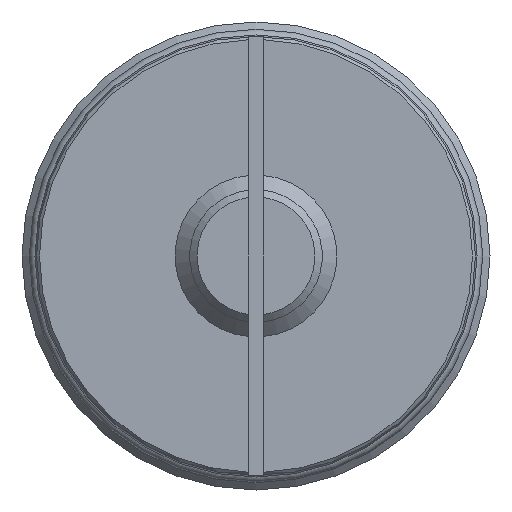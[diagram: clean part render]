
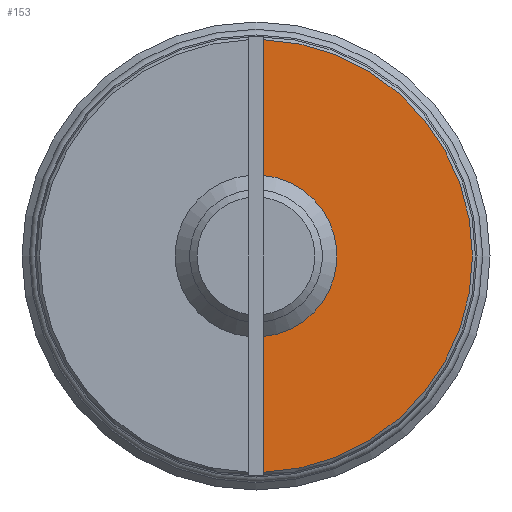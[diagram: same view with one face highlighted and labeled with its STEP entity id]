
A CAD part, left-side view. The second image highlights one B-rep face of the part: STEP entity #153.
In plain terms, the highlighted planar face has unit normal (-1, 0, 0).
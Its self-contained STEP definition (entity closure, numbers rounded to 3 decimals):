
#153 = ADVANCED_FACE( '', ( #328 ), #329, .F. );
#328 = FACE_OUTER_BOUND( '', #521, .T. );
#329 = PLANE( '', #522 );
#521 = EDGE_LOOP( '', ( #892, #893, #894, #895 ) );
#522 = AXIS2_PLACEMENT_3D( '', #896, #897, #898 );
#892 = ORIENTED_EDGE( '', *, *, #1178, .F. );
#893 = ORIENTED_EDGE( '', *, *, #1112, .T. );
#894 = ORIENTED_EDGE( '', *, *, #1038, .T. );
#895 = ORIENTED_EDGE( '', *, *, #1117, .T. );
#896 = CARTESIAN_POINT( '', ( 0., 0., 0. ) );
#897 = DIRECTION( '', ( 1., 0., 0. ) );
#898 = DIRECTION( '', ( 0., 0., -1. ) );
#1038 = EDGE_CURVE( '', #1210, #1211, #1212, .T. );
#1112 = EDGE_CURVE( '', #1334, #1210, #1335, .T. );
#1117 = EDGE_CURVE( '', #1211, #1341, #1343, .T. );
#1178 = EDGE_CURVE( '', #1334, #1341, #1425, .T. );
#1210 = VERTEX_POINT( '', #1461 );
#1211 = VERTEX_POINT( '', #1462 );
#1212 = CIRCLE( '', #1463, 5.53 );
#1334 = VERTEX_POINT( '', #1650 );
#1335 = LINE( '', #1651, #1652 );
#1341 = VERTEX_POINT( '', #1661 );
#1343 = LINE( '', #1664, #1665 );
#1425 = CIRCLE( '', #1782, 14.8 );
#1461 = CARTESIAN_POINT( '', ( 0., -0.5, 5.507 ) );
#1462 = CARTESIAN_POINT( '', ( 0., -0.5, -5.507 ) );
#1463 = AXIS2_PLACEMENT_3D( '', #1823, #1824, #1825 );
#1650 = CARTESIAN_POINT( '', ( 0., -0.5, 14.792 ) );
#1651 = CARTESIAN_POINT( '', ( 0., -0.5, 15. ) );
#1652 = VECTOR( '', #1901, 1000. );
#1661 = CARTESIAN_POINT( '', ( 0., -0.5, -14.792 ) );
#1664 = CARTESIAN_POINT( '', ( 0., -0.5, 15. ) );
#1665 = VECTOR( '', #1906, 1000. );
#1782 = AXIS2_PLACEMENT_3D( '', #1967, #1968, #1969 );
#1823 = CARTESIAN_POINT( '', ( 0., 0., 0. ) );
#1824 = DIRECTION( '', ( 1., 0., 0. ) );
#1825 = DIRECTION( '', ( 0., 0., -1. ) );
#1901 = DIRECTION( '', ( 0., 0., -1. ) );
#1906 = DIRECTION( '', ( 0., 0., -1. ) );
#1967 = CARTESIAN_POINT( '', ( 0., 0., 0. ) );
#1968 = DIRECTION( '', ( 1., 0., 0. ) );
#1969 = DIRECTION( '', ( 0., 0., -1. ) );
